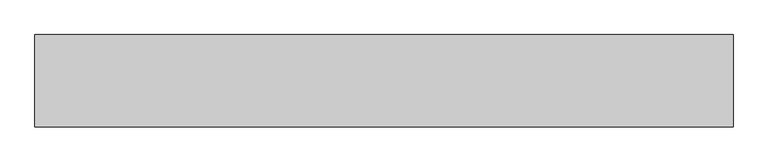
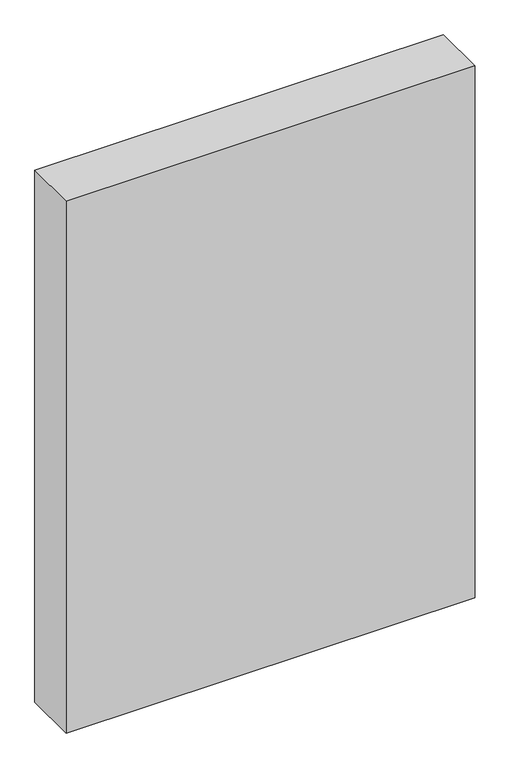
"""IFC4 building model written with IfcOpenShell, lengths in millimetres: proxy geometry."""

from ifc_helpers import new_model, si_unit, origin, origin_with_axes, place, context, project, spatial, polyline, outline, extrude, source, transform, mapped, element, save


def generic_models_b4e7d9bd(model_context):
    return source(origin(), model_context, "Body", "SweptSolid", [
        extrude(outline(polyline([(-1510.0, 0.0), (0.0, 0.0), (0.0, -200.0), (-1510.0, -200.0), (-1510.0, 0.0)])), origin_with_axes(), (0.0, 0.0, 1.0), 2075.0),
    ])


if __name__ == "__main__":
    model = new_model("IFC4")
    model_context = context("Model", 3, world=origin())
    ifc_project = project(units=[si_unit("LENGTHUNIT", "METRE", prefix="MILLI")], contexts=[model_context])
    site = spatial("IfcSite", under=ifc_project)
    building = spatial("IfcBuilding", under=site)
    placement = place(None, origin())
    generic_models_shape = generic_models_b4e7d9bd(model_context)
    element("IfcBuildingElementProxy", 1, Name="Generic Models", at=placement, inside=building, context=model_context, shape_type="MappedRepresentation", body=[
        mapped(generic_models_shape, transform((0.0, 0.0, 0.0), x_axis=(1.0, 0.0, 0.0), y_axis=(0.0, 1.0, 0.0), z_axis=(0.0, 0.0, 1.0))),
    ])
    save(model, "model.ifc")
